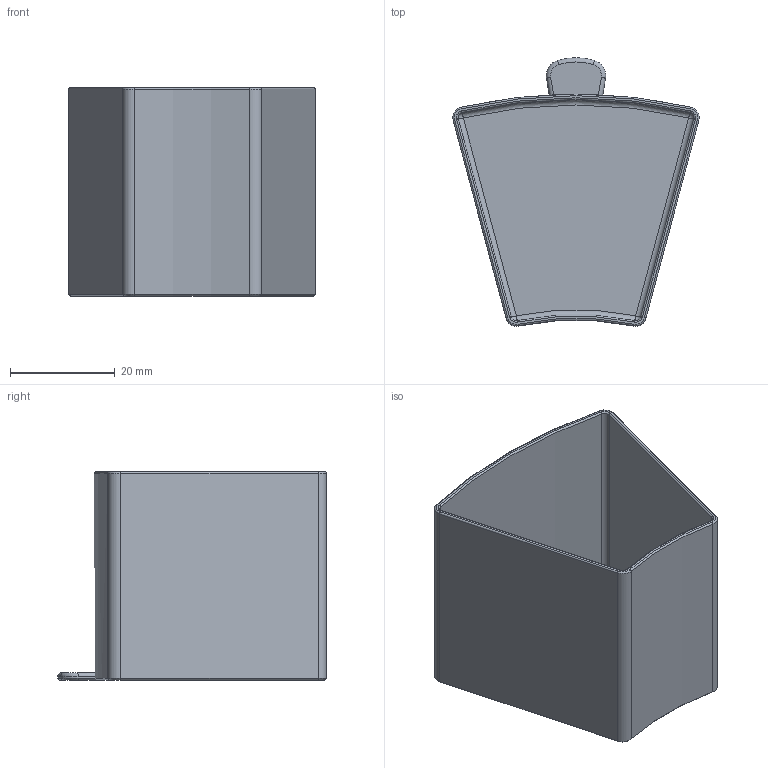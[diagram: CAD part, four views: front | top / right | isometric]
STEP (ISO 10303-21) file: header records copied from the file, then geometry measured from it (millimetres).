
FILE_DESCRIPTION(('FreeCAD Model'),'2;1');
FILE_NAME( 'D:/GitRepo/CAD-Design/FreeCAD/Spool_Organizer/Box_30.V03.step', '2017-11-26T14:57:42',('Author'),(''), 'Open CASCADE STEP processor 7.1','FreeCAD','Unknown');
FILE_SCHEMA(('AUTOMOTIVE_DESIGN { 1 0 10303 214 1 1 1 1 }'));
Length unit declared in the file: millimetre
Products named in the file (1): Box_A.07.Fusion
Bounding box: 46.96 x 51.17 x 39.8 mm (x, y, z)
Volume: 7674.2 mm3; surface area: 15283.7 mm2
Topology: 1 solids, 1 shells, 70 faces, 157 edges, 86 vertices
Faces by surface type: cylinder 23, torus 17, plane 16, cone 10, sphere 4
Entity records: 5048 total; most frequent: CARTESIAN_POINT 1980, DIRECTION 584, ORIENTED_EDGE 306, PCURVE 306, DEFINITIONAL_REPRESENTATION 306, LINE 242, VECTOR 242, AXIS2_PLACEMENT_3D 162
